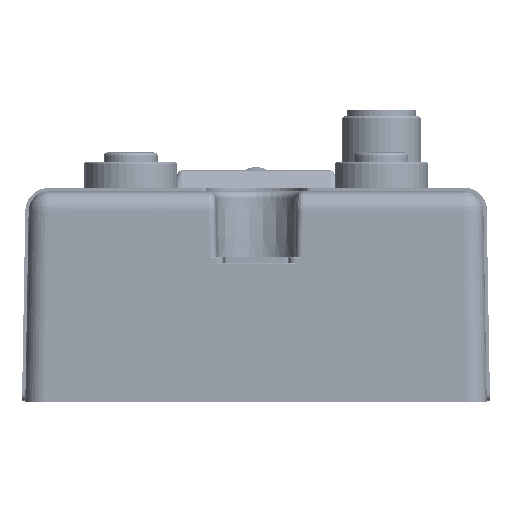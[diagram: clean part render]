
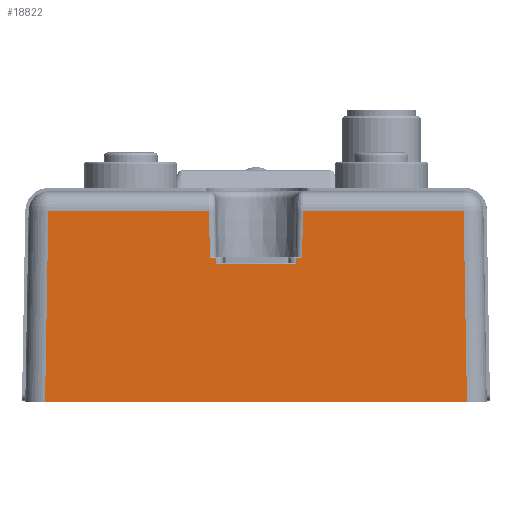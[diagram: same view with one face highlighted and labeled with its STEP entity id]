
A CAD part, front view. The second image highlights one B-rep face of the part: STEP entity #18822.
In plain terms, the highlighted planar face has unit normal (0, -1, 0.018).
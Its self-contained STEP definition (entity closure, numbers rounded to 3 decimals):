
#18042=CARTESIAN_POINT('',(6.998,-56.118,-10.098));
#18043=VERTEX_POINT('',#18042);
#18181=CARTESIAN_POINT('',(6.012,-56.118,-10.098));
#18182=VERTEX_POINT('',#18181);
#18190=CARTESIAN_POINT('',(6.012,-56.118,-10.098));
#18191=DIRECTION('',(1.0,0.0,0.0));
#18192=VECTOR('',#18191,0.986);
#18193=LINE('',#18190,#18192);
#18194=EDGE_CURVE('',#18182,#18043,#18193,.T.);
#18375=CARTESIAN_POINT('',(-6.998,-56.118,-10.098));
#18376=VERTEX_POINT('',#18375);
#18599=CARTESIAN_POINT('',(-6.012,-56.118,-10.098));
#18600=VERTEX_POINT('',#18599);
#18601=CARTESIAN_POINT('',(-6.998,-56.118,-10.098));
#18602=DIRECTION('',(1.0,0.0,0.0));
#18603=VECTOR('',#18602,0.986);
#18604=LINE('',#18601,#18603);
#18605=EDGE_CURVE('',#18376,#18600,#18604,.T.);
#18633=CARTESIAN_POINT('',(-7.123,-55.993,-2.948));
#18634=VERTEX_POINT('',#18633);
#18642=CARTESIAN_POINT('',(-7.123,-55.993,-2.948));
#18643=DIRECTION('',(0.017,-0.017,-1.));
#18644=VECTOR('',#18643,7.153);
#18645=LINE('',#18642,#18644);
#18646=EDGE_CURVE('',#18634,#18376,#18645,.T.);
#18721=CARTESIAN_POINT('',(-5.996,-56.133,-10.997));
#18722=VERTEX_POINT('',#18721);
#18723=CARTESIAN_POINT('',(-6.012,-56.118,-10.098));
#18724=DIRECTION('',(0.017,-0.017,-1.));
#18725=VECTOR('',#18724,0.899);
#18726=LINE('',#18723,#18725);
#18727=EDGE_CURVE('',#18600,#18722,#18726,.T.);
#18751=CARTESIAN_POINT('',(-34.441,-55.941,0.0));
#18752=DIRECTION('',(0.0,-1.,0.017));
#18753=DIRECTION('',(-1.0,0.0,0.0));
#18754=AXIS2_PLACEMENT_3D('',#18751,#18752,#18753);
#18755=PLANE('',#18754);
#18756=ORIENTED_EDGE('',*,*,#18194,.F.);
#18757=CARTESIAN_POINT('',(5.996,-56.133,-10.997));
#18758=VERTEX_POINT('',#18757);
#18759=CARTESIAN_POINT('',(5.996,-56.133,-10.997));
#18760=DIRECTION('',(0.017,0.017,1.));
#18761=VECTOR('',#18760,0.899);
#18762=LINE('',#18759,#18761);
#18763=EDGE_CURVE('',#18758,#18182,#18762,.T.);
#18764=ORIENTED_EDGE('',*,*,#18763,.F.);
#18765=CARTESIAN_POINT('',(-5.996,-56.133,-10.997));
#18766=DIRECTION('',(1.0,0.0,0.0));
#18767=VECTOR('',#18766,11.993);
#18768=LINE('',#18765,#18767);
#18769=EDGE_CURVE('',#18722,#18758,#18768,.T.);
#18770=ORIENTED_EDGE('',*,*,#18769,.F.);
#18771=ORIENTED_EDGE('',*,*,#18727,.F.);
#18772=ORIENTED_EDGE('',*,*,#18605,.F.);
#18773=ORIENTED_EDGE('',*,*,#18646,.F.);
#18774=CARTESIAN_POINT('',(-31.493,-55.993,-2.948));
#18775=VERTEX_POINT('',#18774);
#18776=CARTESIAN_POINT('',(-31.493,-55.993,-2.948));
#18777=DIRECTION('',(1.0,0.0,0.0));
#18778=VECTOR('',#18777,24.37);
#18779=LINE('',#18776,#18778);
#18780=EDGE_CURVE('',#18775,#18634,#18779,.T.);
#18781=ORIENTED_EDGE('',*,*,#18780,.F.);
#18782=CARTESIAN_POINT('',(-32.,-56.5,-32.0));
#18783=VERTEX_POINT('',#18782);
#18784=CARTESIAN_POINT('',(-32.,-56.5,-32.));
#18785=DIRECTION('',(0.017,0.017,1.));
#18786=VECTOR('',#18785,29.061);
#18787=LINE('',#18784,#18786);
#18788=EDGE_CURVE('',#18783,#18775,#18787,.T.);
#18789=ORIENTED_EDGE('',*,*,#18788,.F.);
#18790=CARTESIAN_POINT('',(32.,-56.5,-32.0));
#18791=VERTEX_POINT('',#18790);
#18792=CARTESIAN_POINT('',(-32.,-56.5,-32.0));
#18793=DIRECTION('',(1.0,0.0,0.0));
#18794=VECTOR('',#18793,64.001);
#18795=LINE('',#18792,#18794);
#18796=EDGE_CURVE('',#18783,#18791,#18795,.T.);
#18797=ORIENTED_EDGE('',*,*,#18796,.T.);
#18798=CARTESIAN_POINT('',(31.493,-55.993,-2.948));
#18799=VERTEX_POINT('',#18798);
#18800=CARTESIAN_POINT('',(31.493,-55.993,-2.948));
#18801=DIRECTION('',(0.017,-0.017,-1.));
#18802=VECTOR('',#18801,29.061);
#18803=LINE('',#18800,#18802);
#18804=EDGE_CURVE('',#18799,#18791,#18803,.T.);
#18805=ORIENTED_EDGE('',*,*,#18804,.F.);
#18806=CARTESIAN_POINT('',(7.123,-55.993,-2.948));
#18807=VERTEX_POINT('',#18806);
#18808=CARTESIAN_POINT('',(7.123,-55.993,-2.948));
#18809=DIRECTION('',(1.0,0.0,0.0));
#18810=VECTOR('',#18809,24.37);
#18811=LINE('',#18808,#18810);
#18812=EDGE_CURVE('',#18807,#18799,#18811,.T.);
#18813=ORIENTED_EDGE('',*,*,#18812,.F.);
#18814=CARTESIAN_POINT('',(6.998,-56.118,-10.098));
#18815=DIRECTION('',(0.017,0.017,1.));
#18816=VECTOR('',#18815,7.153);
#18817=LINE('',#18814,#18816);
#18818=EDGE_CURVE('',#18043,#18807,#18817,.T.);
#18819=ORIENTED_EDGE('',*,*,#18818,.F.);
#18820=EDGE_LOOP('',(#18756,#18764,#18770,#18771,#18772,#18773,#18781,#18789,#18797,#18805,#18813,#18819));
#18821=FACE_OUTER_BOUND('',#18820,.T.);
#18822=ADVANCED_FACE('',(#18821),#18755,.T.);
